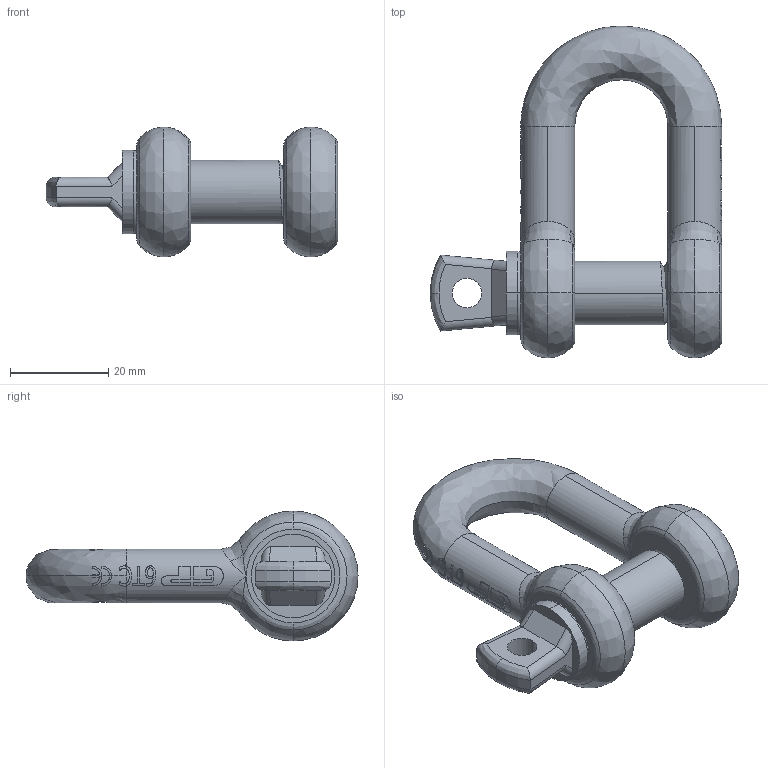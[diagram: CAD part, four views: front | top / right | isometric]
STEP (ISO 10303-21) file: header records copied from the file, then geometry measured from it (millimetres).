
FILE_DESCRIPTION(('STEP AP214'),'1');
FILE_NAME('gpgdbb11.stp','2017-05-23T12:19:44',('TraceParts'),('TraceParts S.A.'),'Spatial InterOp 3D',' ',' ');
FILE_SCHEMA(('automotive_design'));
Length unit declared in the file: millimetre
Products named in the file (2): gpgdbb11_1; gpgdbb11_2
Bounding box: 59.5 x 67.75 x 26.5 mm (x, y, z)
Volume: 23525.1 mm3; surface area: 10097 mm2
Topology: 2 solids, 2 shells, 300 faces, 831 edges, 537 vertices
Faces by surface type: bspline 117, plane 109, cylinder 69, cone 3, torus 2
Entity records: 17821 total; most frequent: CARTESIAN_POINT 11157, ORIENTED_EDGE 1638, DIRECTION 1004, EDGE_CURVE 819, VERTEX_POINT 537, AXIS2_PLACEMENT_3D 345, EDGE_LOOP 320, LINE 314
